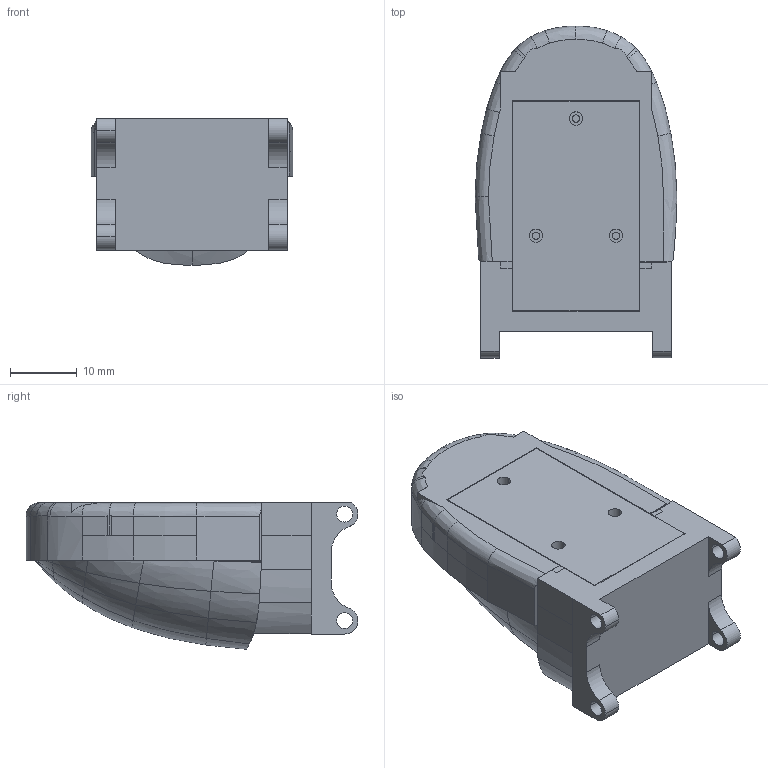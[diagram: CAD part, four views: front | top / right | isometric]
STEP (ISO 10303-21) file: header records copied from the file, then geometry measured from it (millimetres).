
FILE_DESCRIPTION (( 'STEP AP214' ), '1' );
FILE_NAME ('手指4去除皮肤装', '2026-07-09T18:10:21', ( '' ), ( '' ), 'SwSTEP 2.0', 'SolidWorks 2024', '' );
FILE_SCHEMA (( 'AUTOMOTIVE_DESIGN' ));
Length unit declared in the file: millimetre
Products named in the file (4): 指尖背板; 指尖30mm去除皮肤_默认; 传感器链接舵机_手指4_默认; 手指4去除皮肤装配体
Assembly tree (3 placements, depth 2):
  手指4去除皮肤装配体
    传感器链接舵机_手指4_默认
    指尖30mm去除皮肤_默认
    指尖背板
Bounding box: 30.27 x 49.8 x 22 mm (x, y, z)
Volume: 16226.9 mm3; surface area: 10311.5 mm2
Topology: 4 solids, 6 shells, 809 faces, 2287 edges, 1487 vertices
Faces by surface type: plane 505, cylinder 164, bspline 132, torus 6, sphere 2
Entity records: 32764 total; most frequent: CARTESIAN_POINT 12609, ORIENTED_EDGE 4570, DIRECTION 3565, EDGE_CURVE 2285, VECTOR 1589, LINE 1589, VERTEX_POINT 1487, AXIS2_PLACEMENT_3D 988
